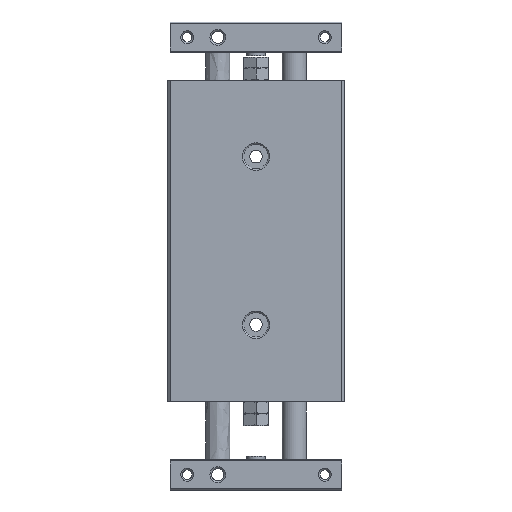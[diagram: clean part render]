
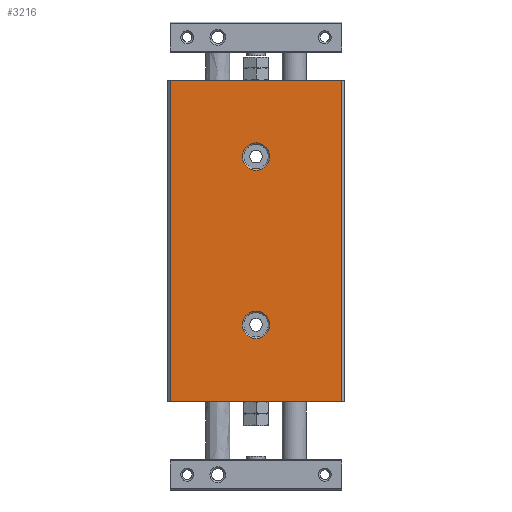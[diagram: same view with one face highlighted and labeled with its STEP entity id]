
A CAD part, front view. The second image highlights one B-rep face of the part: STEP entity #3216.
In plain terms, the highlighted planar face has unit normal (0, -1, 0).
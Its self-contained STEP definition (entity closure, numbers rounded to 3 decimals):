
#1239=CARTESIAN_POINT('',(28.,-10.,0.0));
#1240=VERTEX_POINT('',#1239);
#1247=CARTESIAN_POINT('',(-28.,-10.0,0.0));
#1248=VERTEX_POINT('',#1247);
#1249=CARTESIAN_POINT('',(-28.,-10.0,0.0));
#1250=DIRECTION('',(1.0,0.0,0.0));
#1251=VECTOR('',#1250,56.);
#1252=LINE('',#1249,#1251);
#1253=EDGE_CURVE('',#1248,#1240,#1252,.T.);
#2847=CARTESIAN_POINT('',(-28.,-10.0,105.0));
#2848=VERTEX_POINT('',#2847);
#2855=CARTESIAN_POINT('',(28.,-10.,105.0));
#2856=VERTEX_POINT('',#2855);
#2857=CARTESIAN_POINT('',(28.,-10.,105.0));
#2858=DIRECTION('',(-1.0,0.0,0.0));
#2859=VECTOR('',#2858,56.);
#2860=LINE('',#2857,#2859);
#2861=EDGE_CURVE('',#2856,#2848,#2860,.T.);
#3169=CARTESIAN_POINT('',(4.5,-10.,80.0));
#3170=VERTEX_POINT('',#3169);
#3171=CARTESIAN_POINT('',(0.,-10.,80.0));
#3172=DIRECTION('',(0.0,-1.0,0.0));
#3173=DIRECTION('',(-1.0,0.0,0.0));
#3174=AXIS2_PLACEMENT_3D('',#3171,#3172,#3173);
#3175=CIRCLE('',#3174,4.5);
#3176=EDGE_CURVE('',#3170,#3170,#3175,.T.);
#3181=CARTESIAN_POINT('',(29.,-10.,0.0));
#3182=DIRECTION('',(0.0,-1.0,0.0));
#3183=DIRECTION('',(0.0,0.0,-1.0));
#3184=AXIS2_PLACEMENT_3D('',#3181,#3182,#3183);
#3185=PLANE('',#3184);
#3186=CARTESIAN_POINT('',(28.,-10.,105.0));
#3187=DIRECTION('',(0.0,0.0,-1.0));
#3188=VECTOR('',#3187,105.0);
#3189=LINE('',#3186,#3188);
#3190=EDGE_CURVE('',#2856,#1240,#3189,.T.);
#3191=ORIENTED_EDGE('',*,*,#3190,.F.);
#3192=ORIENTED_EDGE('',*,*,#2861,.T.);
#3193=CARTESIAN_POINT('',(-28.,-10.0,0.0));
#3194=DIRECTION('',(0.0,0.0,1.0));
#3195=VECTOR('',#3194,105.0);
#3196=LINE('',#3193,#3195);
#3197=EDGE_CURVE('',#1248,#2848,#3196,.T.);
#3198=ORIENTED_EDGE('',*,*,#3197,.F.);
#3199=ORIENTED_EDGE('',*,*,#1253,.T.);
#3200=EDGE_LOOP('',(#3191,#3192,#3198,#3199));
#3201=FACE_OUTER_BOUND('',#3200,.T.);
#3202=CARTESIAN_POINT('',(4.5,-10.,25.0));
#3203=VERTEX_POINT('',#3202);
#3204=CARTESIAN_POINT('',(0.,-10.,25.0));
#3205=DIRECTION('',(0.0,-1.0,0.0));
#3206=DIRECTION('',(-1.0,0.0,0.0));
#3207=AXIS2_PLACEMENT_3D('',#3204,#3205,#3206);
#3208=CIRCLE('',#3207,4.5);
#3209=EDGE_CURVE('',#3203,#3203,#3208,.T.);
#3210=ORIENTED_EDGE('',*,*,#3209,.F.);
#3211=EDGE_LOOP('',(#3210));
#3212=FACE_BOUND('',#3211,.T.);
#3213=ORIENTED_EDGE('',*,*,#3176,.F.);
#3214=EDGE_LOOP('',(#3213));
#3215=FACE_BOUND('',#3214,.T.);
#3216=ADVANCED_FACE('',(#3201,#3212,#3215),#3185,.T.);
